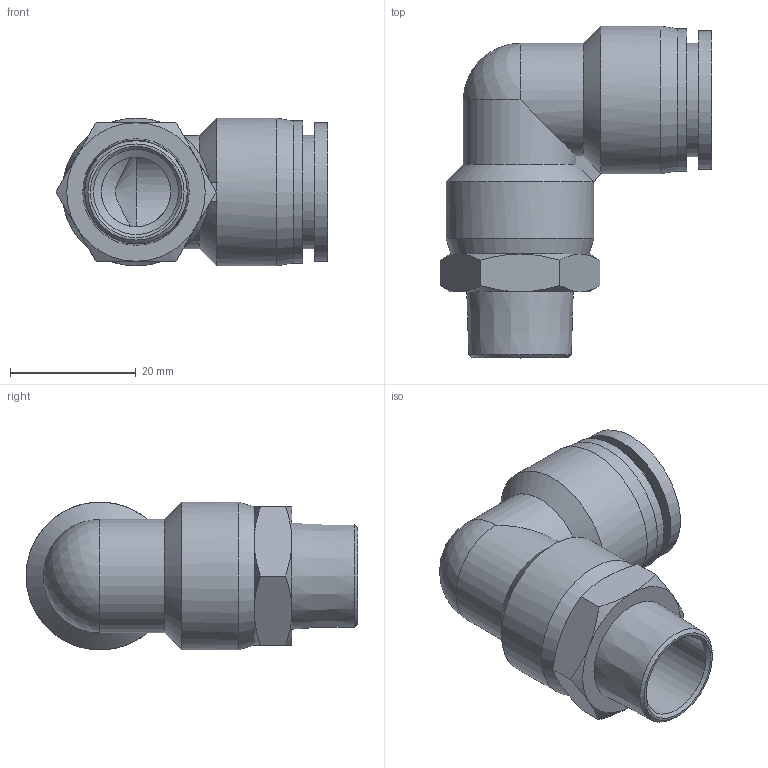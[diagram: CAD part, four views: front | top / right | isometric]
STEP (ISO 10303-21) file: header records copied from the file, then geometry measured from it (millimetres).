
FILE_DESCRIPTION((''),'2;1');
FILE_NAME('S:\UTecnico\ArchivioUT\Speciali Clienti\Speciali KONFIT\Plastica\RP\RP 72K\RP72K3814.stp','2012-05-21T15:48:24',('UT5'),(''),'Autodesk Inventor 2012','Autodesk Inventor 2012','');
FILE_SCHEMA(('AUTOMOTIVE_DESIGN { 1 0 10303 214 1 1 1 1 }'));
Length unit declared in the file: millimetre
Products named in the file (1): RP72K3814
Bounding box: 43.2 x 52.75 x 23.5 mm (x, y, z)
Volume: 14039.6 mm3; surface area: 8364.1 mm2
Topology: 1 solids, 1 shells, 47 faces, 108 edges, 66 vertices
Faces by surface type: cone 22, plane 14, cylinder 10, sphere 1
Full cylindrical faces by diameter (mm): 11 x1, 13.5 x1, 14 x1, 18 x1, 22 x1, 22.6 x1, 23.5 x2
Entity records: 1268 total; most frequent: CARTESIAN_POINT 300, DIRECTION 192, ORIENTED_EDGE 176, AXIS2_PLACEMENT_3D 88, EDGE_CURVE 88, EDGE_LOOP 66, VERTEX_POINT 60, FACE_OUTER_BOUND 47
